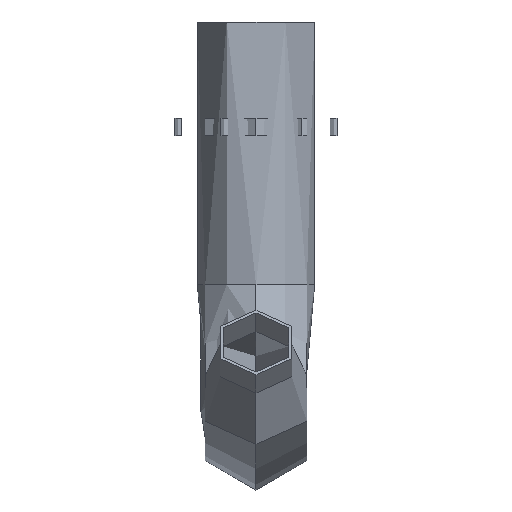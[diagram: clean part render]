
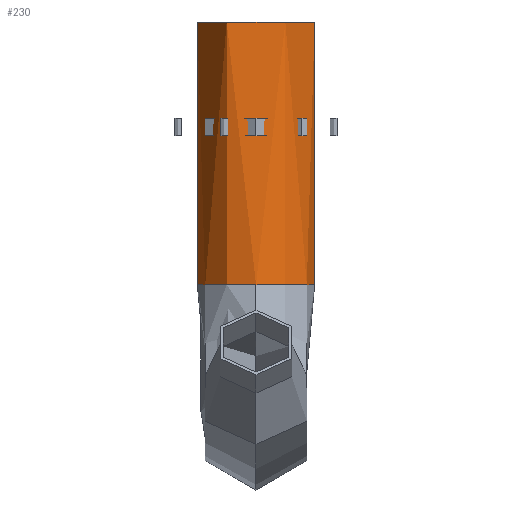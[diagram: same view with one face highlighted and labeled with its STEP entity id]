
A CAD part, front view. The second image highlights one B-rep face of the part: STEP entity #230.
In plain terms, the highlighted cylindrical face has radius 32 mm (diameter 64 mm), a partial arc.
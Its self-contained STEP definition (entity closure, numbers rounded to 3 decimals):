
#230=ADVANCED_FACE('0:1219',(#450),#451,.T.);
#450=FACE_OUTER_BOUND('',#663,.T.);
#451=CYLINDRICAL_SURFACE('',#664,32.0);
#663=EDGE_LOOP('',(#1084,#1085,#1086,#1087,#1088));
#664=AXIS2_PLACEMENT_3D('',#1089,#1090,#1091);
#1084=ORIENTED_EDGE('',*,*,#1375,.T.);
#1085=ORIENTED_EDGE('',*,*,#1415,.F.);
#1086=ORIENTED_EDGE('',*,*,#1377,.T.);
#1087=ORIENTED_EDGE('',*,*,#1416,.F.);
#1088=ORIENTED_EDGE('',*,*,#1273,.F.);
#1089=CARTESIAN_POINT('',(284.322,-178.941,-158.255));
#1090=DIRECTION('',(0.0,0.0,-1.0));
#1091=DIRECTION('',(1.0,0.0,0.0));
#1273=EDGE_CURVE('',#1499,#1501,#1502,.T.);
#1375=EDGE_CURVE('',#1499,#1658,#1659,.T.);
#1377=EDGE_CURVE('',#1662,#1660,#1663,.T.);
#1415=EDGE_CURVE('0:1249',#1662,#1658,#1709,.T.);
#1416=EDGE_CURVE('',#1501,#1660,#1710,.T.);
#1499=VERTEX_POINT('',#1804);
#1501=VERTEX_POINT('',#1806);
#1502=CIRCLE('',#1807,32.);
#1658=VERTEX_POINT('',#2030);
#1659=LINE('',#2031,#2032);
#1660=VERTEX_POINT('',#2033);
#1662=VERTEX_POINT('',#2035);
#1663=LINE('',#2036,#2037);
#1709=CIRCLE('',#2092,32.0);
#1710=CIRCLE('',#2093,32.);
#1804=CARTESIAN_POINT('',(316.322,-178.941,-244.118));
#1806=CARTESIAN_POINT('',(284.322,-210.941,-244.118));
#1807=AXIS2_PLACEMENT_3D('',#2179,#2180,#2181);
#2030=CARTESIAN_POINT('',(316.322,-178.941,-100.895));
#2031=CARTESIAN_POINT('',(316.322,-178.941,-158.255));
#2032=VECTOR('',#2361,1.0);
#2033=CARTESIAN_POINT('',(252.322,-178.941,-244.118));
#2035=CARTESIAN_POINT('',(252.322,-178.941,-100.895));
#2036=CARTESIAN_POINT('',(252.322,-178.941,-158.255));
#2037=VECTOR('',#2365,1.0);
#2092=AXIS2_PLACEMENT_3D('',#2423,#2424,#2425);
#2093=AXIS2_PLACEMENT_3D('',#2426,#2427,#2428);
#2179=CARTESIAN_POINT('',(284.322,-178.941,-244.118));
#2180=DIRECTION('',(0.0,0.0,-1.0));
#2181=DIRECTION('',(-1.0,0.0,0.0));
#2361=DIRECTION('',(-0.0,-0.0,1.0));
#2365=DIRECTION('',(0.0,0.0,-1.0));
#2423=CARTESIAN_POINT('',(284.322,-178.941,-100.895));
#2424=DIRECTION('',(0.0,0.0,1.0));
#2425=DIRECTION('',(1.0,0.0,0.0));
#2426=CARTESIAN_POINT('',(284.322,-178.941,-244.118));
#2427=DIRECTION('',(0.0,0.0,-1.0));
#2428=DIRECTION('',(-1.0,0.0,0.0));
